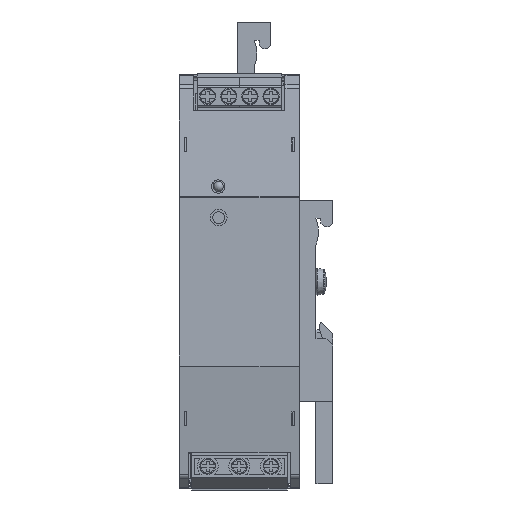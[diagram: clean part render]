
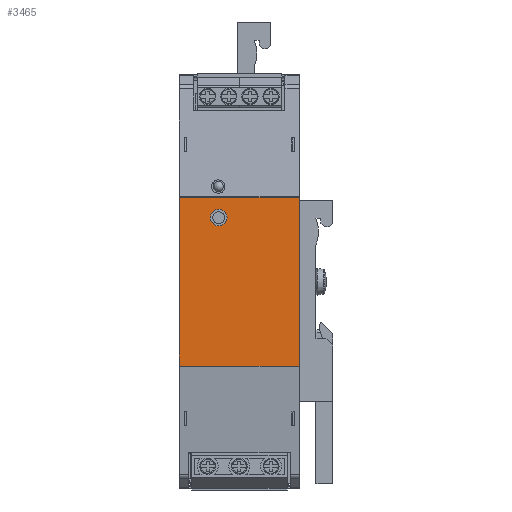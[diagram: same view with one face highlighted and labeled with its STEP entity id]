
A CAD part, front view. The second image highlights one B-rep face of the part: STEP entity #3465.
In plain terms, the highlighted planar face has unit normal (0, -1, 0).
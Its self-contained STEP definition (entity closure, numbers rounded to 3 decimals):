
#3465 = ADVANCED_FACE( '', ( #8612, #8613 ), #8614, .T. );
#8612 = FACE_OUTER_BOUND( '', #17906, .T. );
#8613 = FACE_BOUND( '', #17907, .T. );
#8614 = PLANE( '', #17908 );
#17906 = EDGE_LOOP( '', ( #32113, #32114, #32115, #32116 ) );
#17907 = EDGE_LOOP( '', ( #32117 ) );
#17908 = AXIS2_PLACEMENT_3D( '', #32118, #32119, #32120 );
#32113 = ORIENTED_EDGE( '', *, *, #50569, .F. );
#32114 = ORIENTED_EDGE( '', *, *, #50570, .F. );
#32115 = ORIENTED_EDGE( '', *, *, #50571, .T. );
#32116 = ORIENTED_EDGE( '', *, *, #50572, .T. );
#32117 = ORIENTED_EDGE( '', *, *, #50573, .F. );
#32118 = CARTESIAN_POINT( '', ( -22.5, -55.105, -25.39 ) );
#32119 = DIRECTION( '', ( 0., -1., 0. ) );
#32120 = DIRECTION( '', ( -1., 0., 0. ) );
#50569 = EDGE_CURVE( '', #62278, #62279, #62280, .T. );
#50570 = EDGE_CURVE( '', #62281, #62278, #62282, .T. );
#50571 = EDGE_CURVE( '', #62281, #62283, #62284, .T. );
#50572 = EDGE_CURVE( '', #62283, #62279, #62285, .T. );
#50573 = EDGE_CURVE( '', #62286, #62286, #62287, .T. );
#62278 = VERTEX_POINT( '', #78673 );
#62279 = VERTEX_POINT( '', #78674 );
#62280 = LINE( '', #78675, #78676 );
#62281 = VERTEX_POINT( '', #78677 );
#62282 = LINE( '', #78678, #78679 );
#62283 = VERTEX_POINT( '', #78680 );
#62284 = LINE( '', #78681, #78682 );
#62285 = LINE( '', #78683, #78684 );
#62286 = VERTEX_POINT( '', #78685 );
#62287 = CIRCLE( '', #78686, 2.5 );
#78673 = CARTESIAN_POINT( '', ( 13.5, -55.105, 25.322 ) );
#78674 = CARTESIAN_POINT( '', ( 13.5, -55.105, -25.322 ) );
#78675 = CARTESIAN_POINT( '', ( 13.5, -55.105, -25.39 ) );
#78676 = VECTOR( '', #91494, 1000. );
#78677 = CARTESIAN_POINT( '', ( -22.5, -55.105, 25.322 ) );
#78678 = CARTESIAN_POINT( '', ( -22.5, -55.105, 25.322 ) );
#78679 = VECTOR( '', #91495, 1000. );
#78680 = CARTESIAN_POINT( '', ( -22.5, -55.105, -25.322 ) );
#78681 = CARTESIAN_POINT( '', ( -22.5, -55.105, -25.39 ) );
#78682 = VECTOR( '', #91496, 1000. );
#78683 = CARTESIAN_POINT( '', ( -22.5, -55.105, -25.322 ) );
#78684 = VECTOR( '', #91497, 1000. );
#78685 = CARTESIAN_POINT( '', ( -8.205, -55.105, 19.266 ) );
#78686 = AXIS2_PLACEMENT_3D( '', #91498, #91499, #91500 );
#91494 = DIRECTION( '', ( 0., 0., -1. ) );
#91495 = DIRECTION( '', ( 1., 0., 0. ) );
#91496 = DIRECTION( '', ( 0., 0., -1. ) );
#91497 = DIRECTION( '', ( 1., 0., 0. ) );
#91498 = CARTESIAN_POINT( '', ( -10.705, -55.105, 19.266 ) );
#91499 = DIRECTION( '', ( 0., -1., 0. ) );
#91500 = DIRECTION( '', ( 1., 0., 0. ) );
